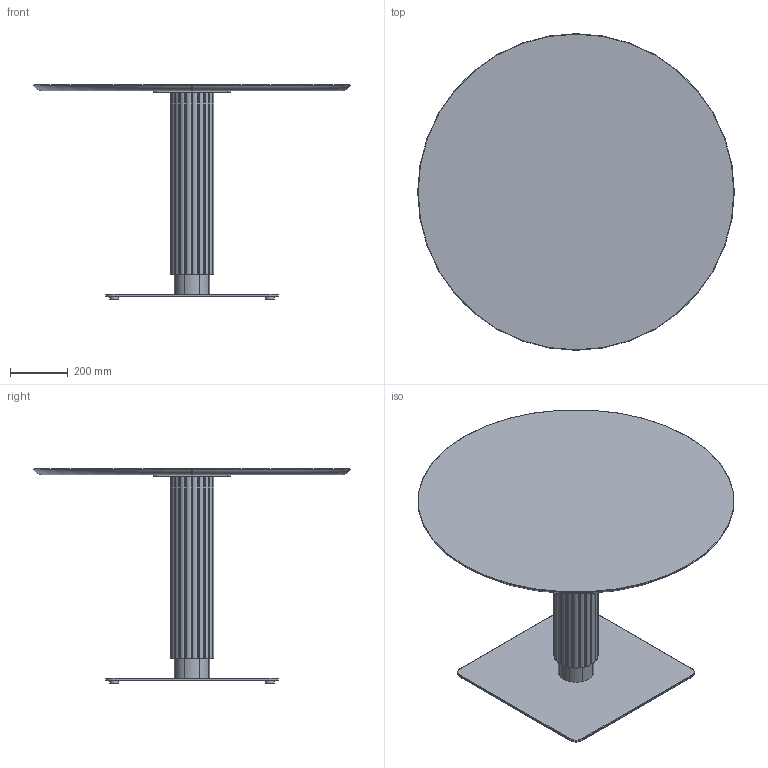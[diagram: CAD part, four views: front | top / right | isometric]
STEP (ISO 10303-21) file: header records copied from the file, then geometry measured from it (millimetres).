
FILE_DESCRIPTION( ('This file contains a STEP AP42 implementation' ,'as created by ZW3D STEP Interface translator.') ,'2;1' );
FILE_NAME( 'Godron - B_Carré - F1 - M3 - 1100 x 1100 x 750.stp' ,'24 912. 94547', (''), ('ZWCAD Software Co.'), 'Version 1.0', 'ZW3D to STEP translator', '' );
FILE_SCHEMA(('AUTOMOTIVE_DESIGN { 1 0 10303 214 1 1 1 1 }'));
Length unit declared in the file: millimetre
Products named in the file (15): 0; PIED BISTROT PARAMETRIQUE_; CROIX ACIER 370 V.02_; CRX-X370-02_; SOCLE ACIER L 600x600 V.02_; SCL-R600-02_; PLA-R30A-01_; PLA-R30A-01; COLONNE ACIER Ø48.5 V.02_; TUB-D048-02_; PLA-R48A-01_; Colonne GODRON H700_; WUERTH 0276063020 Euro-screw 6.3x2 Verzinkt_; PLATEAU BISTROT PARAMETRIQUE_; insert_m6_13_
Assembly tree (23 placements, depth 3):
  0
  PIED BISTROT PARAMETRIQUE_
    CROIX ACIER 370 V.02_
      CRX-X370-02_
    SOCLE ACIER L 600x600 V.02_
      SCL-R600-02_
      PLA-R30A-01_
      PLA-R30A-01  x3
    COLONNE ACIER Ø48.5 V.02_
      TUB-D048-02_
      PLA-R48A-01_  x2
    Colonne GODRON H700_
    WUERTH 0276063020 Euro-screw 6.3x2 Verzinkt_
    PLATEAU BISTROT PARAMETRIQUE_
      insert_m6_13_  x8
Bounding box: 1100 x 1100 x 744 mm (x, y, z)
Volume: 32413810.5 mm3; surface area: 4079883.4 mm2
Topology: 27 solids, 27 shells, 669 faces, 1662 edges, 1062 vertices
Faces by surface type: plane 298, cylinder 196, bspline 121, cone 49, torus 5
Full cylindrical faces by diameter (mm): 4.88 x1, 6 x8, 6.3 x1, 8 x45, 12 x2, 14 x2, 30 x4, 44.5 x3, 48.5 x1
Entity records: 16818 total; most frequent: CARTESIAN_POINT 4133, DIRECTION 2352, ORIENTED_EDGE 2338, EDGE_CURVE 1169, AXIS2_PLACEMENT_3D 837, VERTEX_POINT 756, VECTOR 678, LINE 678
